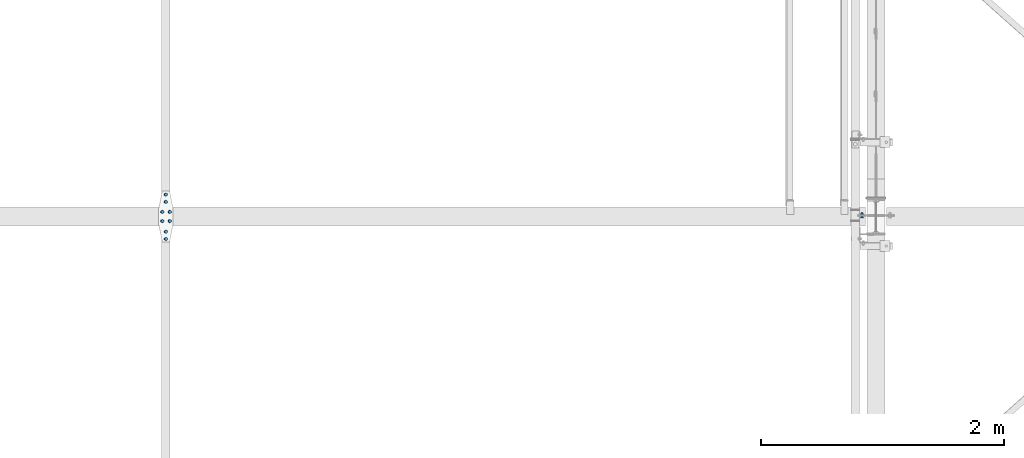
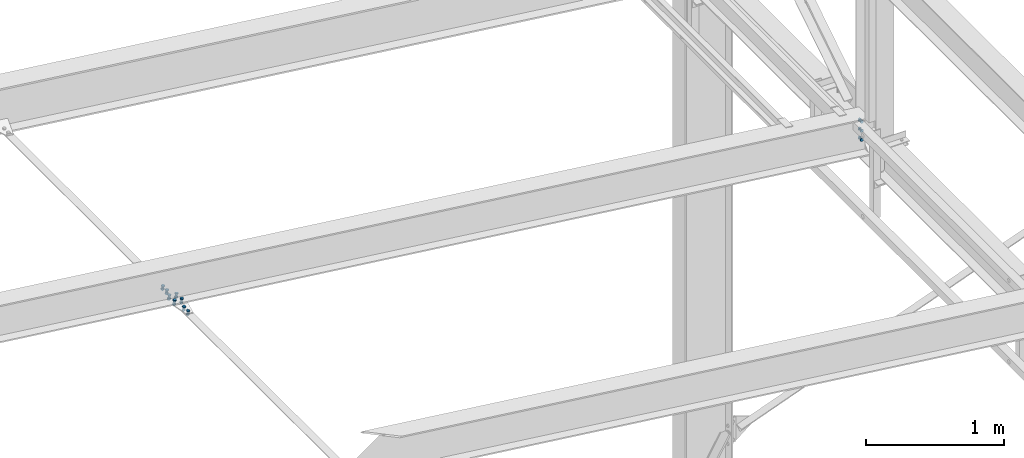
# One storey, part 282 of 3134: 4 mechanical fasteners, 3 elements without a shape of their own.
"""IFC2X3 building model written with IfcOpenShell, lengths in millimetres."""

from ifc_helpers import new_model, si_unit, frame, origin_with_axes, place, context, subcontext, project, spatial, faceted_brep, source, transform, mapped, material, type_object, element, aggregate, save


model = new_model("IFC2X3")

# Units and contexts
model_context = context("Model", 3, precision=1e-05, world=origin_with_axes())
body_context = subcontext(model_context, "Body", "Model", "MODEL_VIEW")
ifc_project = project(units=[si_unit("LENGTHUNIT", "METRE", prefix="MILLI"), si_unit("AREAUNIT", "SQUARE_METRE"), si_unit("VOLUMEUNIT", "CUBIC_METRE"), si_unit("MASSUNIT", "GRAM", prefix="KILO"), si_unit("TIMEUNIT", "SECOND"), si_unit("PLANEANGLEUNIT", "RADIAN"), si_unit("SOLIDANGLEUNIT", "STERADIAN"), si_unit("THERMODYNAMICTEMPERATUREUNIT", "DEGREE_CELSIUS"), si_unit("LUMINOUSINTENSITYUNIT", "LUMEN")], contexts=[model_context])

# Site, building, storey
site_placement = place(None, origin_with_axes())
site = spatial("IfcSite", under=ifc_project, at=site_placement, CompositionType="ELEMENT")
building_placement = place(site_placement, origin_with_axes())
building = spatial("IfcBuilding", under=site, at=building_placement, Name="Undefined", CompositionType="ELEMENT")
storey_placement = place(building_placement, origin_with_axes())
storey = spatial("IfcBuildingStorey", under=building, at=storey_placement, Name="Undefined", CompositionType="ELEMENT", Elevation=0.0)

# Assembly, mechanical fastener
assembly_1_placement = place(storey_placement, origin_with_axes())
assembly_1 = element("IfcElementAssembly", 1, at=assembly_1_placement, inside=storey, Name="PL8", AssemblyPlace="NOTDEFINED", PredefinedType="RIGID_FRAME")
ifc_material = material(Name="8.8")
mechanical_fastener_type = type_object("IfcMechanicalFastenerType", Name="Bolt assembly")
shared_shape_1 = source(origin_with_axes(), body_context, "Body", "Brep", [
    faceted_brep([(13.856406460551, -10.0, 0.0), (6.92820323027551, -10.0, 12.0), (-6.92820323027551, -10.0, 12.0), (-13.856406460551, -10.0, 1.69692038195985e-15), (-6.92820323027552, -10.0, -12.0), (6.9282032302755, -10.0, -12.0), (6.9282032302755, 0.0, -12.0), (-6.92820323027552, 0.0, -12.0), (-13.856406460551, 0.0, 1.69692038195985e-15), (-6.92820323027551, 0.0, 12.0), (6.92820323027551, 0.0, 12.0), (13.856406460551, 0.0, 0.0), (8.0, 0.0, 0.0), (6.92820323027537, 0.0, 4.00000000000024), (3.99999999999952, 0.0, 6.92820323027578), (-8.29068785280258e-13, 0.0, 8.0), (-4.00000000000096, 0.0, 6.92820323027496), (-6.9282032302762, 0.0, 3.99999999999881), (-8.0, 0.0, -1.65813757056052e-12), (-6.92820323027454, 0.0, -4.00000000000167), (-3.99999999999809, 0.0, -6.92820323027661), (2.47832457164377e-12, 0.0, -8.0), (4.00000000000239, 0.0, -6.92820323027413), (6.92820323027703, 0.0, -3.99999999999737), (6.92820323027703, 35.0000000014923, -3.99999999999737), (4.00000000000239, 35.0000000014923, -6.92820323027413), (2.47832457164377e-12, 35.0000000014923, -8.0), (-3.99999999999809, 35.0000000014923, -6.92820323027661), (-6.92820323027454, 35.0000000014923, -4.00000000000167), (-8.0, 35.0000000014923, -1.65813757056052e-12), (-6.9282032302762, 35.0000000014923, 3.99999999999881), (-4.00000000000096, 35.0000000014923, 6.92820323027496), (-8.29068785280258e-13, 35.0000000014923, 8.0), (3.99999999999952, 35.0000000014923, 6.92820323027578), (6.92820323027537, 35.0000000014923, 4.00000000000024), (8.0, 35.0000000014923, 0.0), (13.856406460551, 15.0039204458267, 0.0), (6.92820323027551, 15.0039204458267, 12.0), (-6.92820323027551, 15.0039204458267, 12.0), (-13.856406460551, 15.0039204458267, 1.69692038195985e-15), (-6.92820323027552, 15.0039204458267, -12.0), (6.9282032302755, 15.0039204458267, -12.0), (6.9282032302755, 28.0039204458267, -12.0), (-6.92820323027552, 28.0039204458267, -12.0), (-13.856406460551, 28.0039204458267, 1.69692038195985e-15), (-6.92820323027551, 28.0039204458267, 12.0), (6.92820323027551, 28.0039204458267, 12.0), (13.856406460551, 28.0039204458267, 0.0)], [[[0, 1, 2, 3, 4, 5]], [[6, 7, 8, 9, 10, 11]], [[0, 11, 10, 1]], [[1, 10, 9, 2]], [[2, 9, 8, 3]], [[3, 8, 7, 4]], [[4, 7, 6, 5]], [[5, 6, 11, 0]], [[12, 13, 14, 15, 16, 17, 18, 19, 20, 21, 22, 23]], [[24, 25, 26, 27, 28, 29, 30, 31, 32, 33, 34, 35]], [[12, 35, 34, 13]], [[13, 34, 33, 14]], [[14, 33, 32, 15]], [[15, 32, 31, 16]], [[16, 31, 30, 17]], [[17, 30, 29, 18]], [[18, 29, 28, 19]], [[19, 28, 27, 20]], [[20, 27, 26, 21]], [[21, 26, 25, 22]], [[22, 25, 24, 23]], [[23, 24, 35, 12]], [[36, 37, 38, 39, 40, 41]], [[42, 43, 44, 45, 46, 47]], [[36, 47, 46, 37]], [[37, 46, 45, 38]], [[38, 45, 44, 39]], [[39, 44, 43, 40]], [[40, 43, 42, 41]], [[41, 42, 47, 36]]]),
    faceted_brep([(9.0, 7.90392044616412, 0.0), (7.79422863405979, 7.90392044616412, 4.50000000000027), (4.49999999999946, 7.90392044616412, 7.79422863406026), (-9.3270238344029e-13, 7.90392044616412, 9.0), (-4.50000000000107, 7.90392044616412, 7.79422863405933), (-7.79422863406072, 7.90392044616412, 4.49999999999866), (-9.0, 7.90392044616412, -1.86540476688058e-12), (-7.79422863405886, 7.90392044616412, -4.50000000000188), (-4.49999999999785, 7.90392044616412, -7.79422863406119), (2.78811514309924e-12, 7.90392044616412, -9.0), (4.50000000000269, 7.90392044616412, -7.7942286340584), (7.79422863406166, 7.90392044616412, -4.49999999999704), (7.79422863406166, 15.0039204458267, -4.49999999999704), (4.50000000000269, 15.0039204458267, -7.7942286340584), (2.78811514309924e-12, 15.0039204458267, -9.0), (-4.49999999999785, 15.0039204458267, -7.79422863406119), (-7.79422863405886, 15.0039204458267, -4.50000000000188), (-9.0, 15.0039204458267, -1.86540476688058e-12), (-7.79422863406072, 15.0039204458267, 4.49999999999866), (-4.50000000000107, 15.0039204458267, 7.79422863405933), (-9.3270238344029e-13, 15.0039204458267, 9.0), (4.49999999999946, 15.0039204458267, 7.79422863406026), (7.79422863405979, 15.0039204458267, 4.50000000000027), (9.0, 15.0039204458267, 0.0), (9.0, 0.100000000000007, 0.0), (7.79422863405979, 0.100000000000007, 4.50000000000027), (4.49999999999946, 0.100000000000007, 7.79422863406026), (-9.3270238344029e-13, 0.100000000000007, 9.0), (-4.50000000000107, 0.100000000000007, 7.79422863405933), (-7.79422863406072, 0.100000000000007, 4.49999999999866), (-9.0, 0.100000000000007, -1.86540476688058e-12), (-7.79422863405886, 0.100000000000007, -4.50000000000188), (-4.49999999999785, 0.100000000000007, -7.79422863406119), (2.78811514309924e-12, 0.100000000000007, -9.0), (4.50000000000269, 0.100000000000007, -7.7942286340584), (7.79422863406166, 0.100000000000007, -4.49999999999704), (7.79422863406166, 8.1, -4.49999999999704), (4.50000000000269, 8.1, -7.7942286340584), (2.78811514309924e-12, 8.1, -9.0), (-4.49999999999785, 8.1, -7.79422863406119), (-7.79422863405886, 8.1, -4.50000000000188), (-9.0, 8.1, -1.86540476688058e-12), (-7.79422863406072, 8.1, 4.49999999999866), (-4.50000000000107, 8.1, 7.79422863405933), (-9.3270238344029e-13, 8.1, 9.0), (4.49999999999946, 8.1, 7.79422863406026), (7.79422863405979, 8.1, 4.50000000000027), (9.0, 8.1, 0.0)], [[[0, 1, 2, 3, 4, 5, 6, 7, 8, 9, 10, 11]], [[12, 13, 14, 15, 16, 17, 18, 19, 20, 21, 22, 23]], [[0, 23, 22, 1]], [[1, 22, 21, 2]], [[2, 21, 20, 3]], [[3, 20, 19, 4]], [[4, 19, 18, 5]], [[5, 18, 17, 6]], [[6, 17, 16, 7]], [[7, 16, 15, 8]], [[8, 15, 14, 9]], [[9, 14, 13, 10]], [[10, 13, 12, 11]], [[11, 12, 23, 0]], [[24, 25, 26, 27, 28, 29, 30, 31, 32, 33, 34, 35]], [[36, 37, 38, 39, 40, 41, 42, 43, 44, 45, 46, 47]], [[24, 47, 46, 25]], [[25, 46, 45, 26]], [[26, 45, 44, 27]], [[27, 44, 43, 28]], [[28, 43, 42, 29]], [[29, 42, 41, 30]], [[30, 41, 40, 31]], [[31, 40, 39, 32]], [[32, 39, 38, 33]], [[33, 38, 37, 34]], [[34, 37, 36, 35]], [[35, 36, 47, 24]]]),
])
mechanical_fastener_1_placement = place(assembly_1_placement, frame((38358.9798217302, 58325.0, 4773.97816653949), z_axis=(0.992623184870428, 0.0, -0.121240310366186), x_axis=(0.0, -1.0, 0.0)))
mechanical_fastener_1 = element("IfcMechanicalFastener", 2, at=mechanical_fastener_1_placement, type_object=mechanical_fastener_type, material=ifc_material, Name="Bolt assembly", NominalDiameter=16.0, NominalLength=35.0, context=body_context, shape_type="MappedRepresentation", body=[
    mapped(shared_shape_1, transform((0.0, 0.0, 0.0))),
    mapped(shared_shape_1, transform((59.9999999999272, 0.0, 5.40239852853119e-10))),
])
aggregate(assembly_1, [mechanical_fastener_1])

assembly_2_placement = place(storey_placement, origin_with_axes())
assembly_2 = element("IfcElementAssembly", 3, at=assembly_2_placement, inside=storey, Name="IPE330", AssemblyPlace="NOTDEFINED", PredefinedType="RIGID_FRAME")
shared_shape_2 = source(origin_with_axes(), body_context, "Body", "Brep", [
    faceted_brep([(13.856406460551, -21.4995363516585, 0.0), (6.92820323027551, -21.4995363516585, 12.0), (-6.92820323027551, -21.4995363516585, 12.0), (-13.856406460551, -21.4995363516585, 1.69692038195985e-15), (-6.92820323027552, -21.4995363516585, -12.0), (6.9282032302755, -21.4995363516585, -12.0), (6.9282032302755, -11.4995363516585, -12.0), (-6.92820323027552, -11.4995363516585, -12.0), (-13.856406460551, -11.4995363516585, 1.69692038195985e-15), (-6.92820323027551, -11.4995363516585, 12.0), (6.92820323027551, -11.4995363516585, 12.0), (13.856406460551, -11.4995363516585, 0.0), (8.0, -11.4995363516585, 0.0), (6.92820323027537, -11.4995363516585, 4.00000000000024), (3.99999999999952, -11.4995363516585, 6.92820323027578), (-8.29068785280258e-13, -11.4995363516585, 8.0), (-4.00000000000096, -11.4995363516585, 6.92820323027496), (-6.9282032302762, -11.4995363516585, 3.99999999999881), (-8.0, -11.4995363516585, -1.65813757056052e-12), (-6.92820323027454, -11.4995363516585, -4.00000000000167), (-3.99999999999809, -11.4995363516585, -6.92820323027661), (2.47832457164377e-12, -11.4995363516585, -8.0), (4.00000000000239, -11.4995363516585, -6.92820323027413), (6.92820323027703, -11.4995363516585, -3.99999999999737), (6.92820323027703, 28.5004636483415, -3.99999999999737), (4.00000000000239, 28.5004636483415, -6.92820323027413), (2.47832457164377e-12, 28.5004636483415, -8.0), (-3.99999999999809, 28.5004636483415, -6.92820323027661), (-6.92820323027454, 28.5004636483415, -4.00000000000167), (-8.0, 28.5004636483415, -1.65813757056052e-12), (-6.9282032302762, 28.5004636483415, 3.99999999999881), (-4.00000000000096, 28.5004636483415, 6.92820323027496), (-8.29068785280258e-13, 28.5004636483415, 8.0), (3.99999999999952, 28.5004636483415, 6.92820323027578), (6.92820323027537, 28.5004636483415, 4.00000000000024), (8.0, 28.5004636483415, 0.0), (13.856406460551, 7.9998399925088, 0.0), (6.92820323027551, 7.9998399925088, 12.0), (-6.92820323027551, 7.9998399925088, 12.0), (-13.856406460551, 7.9998399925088, 1.69692038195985e-15), (-6.92820323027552, 7.9998399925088, -12.0), (6.9282032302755, 7.9998399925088, -12.0), (6.9282032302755, 20.9998399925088, -12.0), (-6.92820323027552, 20.9998399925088, -12.0), (-13.856406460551, 20.9998399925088, 1.69692038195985e-15), (-6.92820323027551, 20.9998399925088, 12.0), (6.92820323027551, 20.9998399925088, 12.0), (13.856406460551, 20.9998399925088, 0.0)], [[[0, 1, 2, 3, 4, 5]], [[6, 7, 8, 9, 10, 11]], [[0, 11, 10, 1]], [[1, 10, 9, 2]], [[2, 9, 8, 3]], [[3, 8, 7, 4]], [[4, 7, 6, 5]], [[5, 6, 11, 0]], [[12, 13, 14, 15, 16, 17, 18, 19, 20, 21, 22, 23]], [[24, 25, 26, 27, 28, 29, 30, 31, 32, 33, 34, 35]], [[12, 35, 34, 13]], [[13, 34, 33, 14]], [[14, 33, 32, 15]], [[15, 32, 31, 16]], [[16, 31, 30, 17]], [[17, 30, 29, 18]], [[18, 29, 28, 19]], [[19, 28, 27, 20]], [[20, 27, 26, 21]], [[21, 26, 25, 22]], [[22, 25, 24, 23]], [[23, 24, 35, 12]], [[36, 37, 38, 39, 40, 41]], [[42, 43, 44, 45, 46, 47]], [[36, 47, 46, 37]], [[37, 46, 45, 38]], [[38, 45, 44, 39]], [[39, 44, 43, 40]], [[40, 43, 42, 41]], [[41, 42, 47, 36]]]),
    faceted_brep([(9.0, -0.100160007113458, 0.0), (7.79422863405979, -0.100160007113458, 4.50000000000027), (4.49999999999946, -0.100160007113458, 7.79422863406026), (-9.3270238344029e-13, -0.100160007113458, 9.0), (-4.50000000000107, -0.100160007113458, 7.79422863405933), (-7.79422863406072, -0.100160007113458, 4.49999999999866), (-9.0, -0.100160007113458, -1.86540476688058e-12), (-7.79422863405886, -0.100160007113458, -4.50000000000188), (-4.49999999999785, -0.100160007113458, -7.79422863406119), (2.78811514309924e-12, -0.100160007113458, -9.0), (4.50000000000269, -0.100160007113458, -7.7942286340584), (7.79422863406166, -0.100160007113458, -4.49999999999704), (7.79422863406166, 7.9998399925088, -4.49999999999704), (4.50000000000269, 7.9998399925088, -7.7942286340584), (2.78811514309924e-12, 7.9998399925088, -9.0), (-4.49999999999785, 7.9998399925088, -7.79422863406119), (-7.79422863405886, 7.9998399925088, -4.50000000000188), (-9.0, 7.9998399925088, -1.86540476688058e-12), (-7.79422863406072, 7.9998399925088, 4.49999999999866), (-4.50000000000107, 7.9998399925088, 7.79422863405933), (-9.3270238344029e-13, 7.9998399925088, 9.0), (4.49999999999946, 7.9998399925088, 7.79422863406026), (7.79422863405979, 7.9998399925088, 4.50000000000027), (9.0, 7.9998399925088, 0.0), (9.0, -11.3995363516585, 0.0), (7.79422863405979, -11.3995363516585, 4.50000000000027), (4.49999999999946, -11.3995363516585, 7.79422863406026), (-9.3270238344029e-13, -11.3995363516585, 9.0), (-4.50000000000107, -11.3995363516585, 7.79422863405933), (-7.79422863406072, -11.3995363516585, 4.49999999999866), (-9.0, -11.3995363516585, -1.86540476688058e-12), (-7.79422863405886, -11.3995363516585, -4.50000000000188), (-4.49999999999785, -11.3995363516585, -7.79422863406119), (2.78811514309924e-12, -11.3995363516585, -9.0), (4.50000000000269, -11.3995363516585, -7.7942286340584), (7.79422863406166, -11.3995363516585, -4.49999999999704), (7.79422863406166, 0.100463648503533, -4.49999999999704), (4.50000000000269, 0.100463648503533, -7.7942286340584), (2.78811514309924e-12, 0.100463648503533, -9.0), (-4.49999999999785, 0.100463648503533, -7.79422863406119), (-7.79422863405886, 0.100463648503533, -4.50000000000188), (-9.0, 0.100463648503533, -1.86540476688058e-12), (-7.79422863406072, 0.100463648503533, 4.49999999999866), (-4.50000000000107, 0.100463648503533, 7.79422863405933), (-9.3270238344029e-13, 0.100463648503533, 9.0), (4.49999999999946, 0.100463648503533, 7.79422863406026), (7.79422863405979, 0.100463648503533, 4.50000000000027), (9.0, 0.100463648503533, 0.0)], [[[0, 1, 2, 3, 4, 5, 6, 7, 8, 9, 10, 11]], [[12, 13, 14, 15, 16, 17, 18, 19, 20, 21, 22, 23]], [[0, 23, 22, 1]], [[1, 22, 21, 2]], [[2, 21, 20, 3]], [[3, 20, 19, 4]], [[4, 19, 18, 5]], [[5, 18, 17, 6]], [[6, 17, 16, 7]], [[7, 16, 15, 8]], [[8, 15, 14, 9]], [[9, 14, 13, 10]], [[10, 13, 12, 11]], [[11, 12, 23, 0]], [[24, 25, 26, 27, 28, 29, 30, 31, 32, 33, 34, 35]], [[36, 37, 38, 39, 40, 41, 42, 43, 44, 45, 46, 47]], [[24, 47, 46, 25]], [[25, 46, 45, 26]], [[26, 45, 44, 27]], [[27, 44, 43, 28]], [[28, 43, 42, 29]], [[29, 42, 41, 30]], [[30, 41, 40, 31]], [[31, 40, 39, 32]], [[32, 39, 38, 33]], [[33, 38, 37, 34]], [[34, 37, 36, 35]], [[35, 36, 47, 24]]]),
])
mechanical_fastener_2_placement = place(assembly_2_placement, frame((38358.9798217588, 58412.0, 4773.97816653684), z_axis=(-0.992622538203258, 0.0, 0.121245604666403), x_axis=(0.0, 1.0, 0.0)))
mechanical_fastener_2 = element("IfcMechanicalFastener", 4, at=mechanical_fastener_2_placement, type_object=mechanical_fastener_type, material=ifc_material, Name="Bolt assembly", NominalDiameter=16.0, NominalLength=40.0, context=body_context, shape_type="MappedRepresentation", body=[
    mapped(shared_shape_2, transform((0.0, 4.54747350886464e-13, -30.0000000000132))),
    mapped(shared_shape_2, transform((76.0, -2.00088834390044e-10, -29.9999999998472))),
    mapped(shared_shape_2, transform((0.0, 4.54747350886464e-13, 30.0000000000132))),
    mapped(shared_shape_2, transform((76.0, 1.98269844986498e-10, 29.9999999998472))),
])

assembly_3_placement = place(storey_placement, origin_with_axes())
assembly_3 = element("IfcElementAssembly", 5, at=assembly_3_placement, inside=storey, AssemblyPlace="NOTDEFINED", PredefinedType="RIGID_FRAME")
shared_shape_3 = source(origin_with_axes(), body_context, "Body", "Brep", [
    faceted_brep([(13.856406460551, -10.0, 0.0), (6.92820323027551, -10.0, 12.0), (-6.92820323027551, -10.0, 12.0), (-13.856406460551, -10.0, 1.69692038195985e-15), (-6.92820323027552, -10.0, -12.0), (6.9282032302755, -10.0, -12.0), (6.9282032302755, 0.0, -12.0), (-6.92820323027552, 0.0, -12.0), (-13.856406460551, 0.0, 1.69692038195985e-15), (-6.92820323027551, 0.0, 12.0), (6.92820323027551, 0.0, 12.0), (13.856406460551, 0.0, 0.0), (8.0, 0.0, 0.0), (6.92820323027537, 0.0, 4.00000000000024), (3.99999999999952, 0.0, 6.92820323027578), (-8.29068785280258e-13, 0.0, 8.0), (-4.00000000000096, 0.0, 6.92820323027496), (-6.9282032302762, 0.0, 3.99999999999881), (-8.0, 0.0, -1.65813757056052e-12), (-6.92820323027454, 0.0, -4.00000000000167), (-3.99999999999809, 0.0, -6.92820323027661), (2.47832457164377e-12, 0.0, -8.0), (4.00000000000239, 0.0, -6.92820323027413), (6.92820323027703, 0.0, -3.99999999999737), (6.92820323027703, 35.0000000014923, -3.99999999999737), (4.00000000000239, 35.0000000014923, -6.92820323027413), (2.47832457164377e-12, 35.0000000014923, -8.0), (-3.99999999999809, 35.0000000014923, -6.92820323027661), (-6.92820323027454, 35.0000000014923, -4.00000000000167), (-8.0, 35.0000000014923, -1.65813757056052e-12), (-6.9282032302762, 35.0000000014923, 3.99999999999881), (-4.00000000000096, 35.0000000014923, 6.92820323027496), (-8.29068785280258e-13, 35.0000000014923, 8.0), (3.99999999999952, 35.0000000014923, 6.92820323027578), (6.92820323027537, 35.0000000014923, 4.00000000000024), (8.0, 35.0000000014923, 0.0), (13.856406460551, 15.0039204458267, 0.0), (6.92820323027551, 15.0039204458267, 12.0), (-6.92820323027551, 15.0039204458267, 12.0), (-13.856406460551, 15.0039204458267, 1.69692038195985e-15), (-6.92820323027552, 15.0039204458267, -12.0), (6.9282032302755, 15.0039204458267, -12.0), (6.9282032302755, 28.0039204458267, -12.0), (-6.92820323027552, 28.0039204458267, -12.0), (-13.856406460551, 28.0039204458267, 1.69692038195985e-15), (-6.92820323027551, 28.0039204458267, 12.0), (6.92820323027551, 28.0039204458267, 12.0), (13.856406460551, 28.0039204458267, 0.0)], [[[0, 1, 2, 3, 4, 5]], [[6, 7, 8, 9, 10, 11]], [[0, 11, 10, 1]], [[1, 10, 9, 2]], [[2, 9, 8, 3]], [[3, 8, 7, 4]], [[4, 7, 6, 5]], [[5, 6, 11, 0]], [[12, 13, 14, 15, 16, 17, 18, 19, 20, 21, 22, 23]], [[24, 25, 26, 27, 28, 29, 30, 31, 32, 33, 34, 35]], [[12, 35, 34, 13]], [[13, 34, 33, 14]], [[14, 33, 32, 15]], [[15, 32, 31, 16]], [[16, 31, 30, 17]], [[17, 30, 29, 18]], [[18, 29, 28, 19]], [[19, 28, 27, 20]], [[20, 27, 26, 21]], [[21, 26, 25, 22]], [[22, 25, 24, 23]], [[23, 24, 35, 12]], [[36, 37, 38, 39, 40, 41]], [[42, 43, 44, 45, 46, 47]], [[36, 47, 46, 37]], [[37, 46, 45, 38]], [[38, 45, 44, 39]], [[39, 44, 43, 40]], [[40, 43, 42, 41]], [[41, 42, 47, 36]]]),
    faceted_brep([(9.0, 0.100000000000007, 0.0), (7.79422863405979, 0.100000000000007, 4.50000000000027), (4.49999999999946, 0.100000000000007, 7.79422863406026), (-9.3270238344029e-13, 0.100000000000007, 9.0), (-4.50000000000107, 0.100000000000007, 7.79422863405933), (-7.79422863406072, 0.100000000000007, 4.49999999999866), (-9.0, 0.100000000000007, -1.86540476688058e-12), (-7.79422863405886, 0.100000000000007, -4.50000000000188), (-4.49999999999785, 0.100000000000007, -7.79422863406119), (2.78811514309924e-12, 0.100000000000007, -9.0), (4.50000000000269, 0.100000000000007, -7.7942286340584), (7.79422863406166, 0.100000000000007, -4.49999999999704), (7.79422863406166, 8.1, -4.49999999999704), (4.50000000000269, 8.1, -7.7942286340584), (2.78811514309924e-12, 8.1, -9.0), (-4.49999999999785, 8.1, -7.79422863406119), (-7.79422863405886, 8.1, -4.50000000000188), (-9.0, 8.1, -1.86540476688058e-12), (-7.79422863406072, 8.1, 4.49999999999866), (-4.50000000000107, 8.1, 7.79422863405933), (-9.3270238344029e-13, 8.1, 9.0), (4.49999999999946, 8.1, 7.79422863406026), (7.79422863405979, 8.1, 4.50000000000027), (9.0, 8.1, 0.0), (9.0, 7.90392044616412, 0.0), (7.79422863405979, 7.90392044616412, 4.50000000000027), (4.49999999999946, 7.90392044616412, 7.79422863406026), (-9.3270238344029e-13, 7.90392044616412, 9.0), (-4.50000000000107, 7.90392044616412, 7.79422863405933), (-7.79422863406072, 7.90392044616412, 4.49999999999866), (-9.0, 7.90392044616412, -1.86540476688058e-12), (-7.79422863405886, 7.90392044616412, -4.50000000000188), (-4.49999999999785, 7.90392044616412, -7.79422863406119), (2.78811514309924e-12, 7.90392044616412, -9.0), (4.50000000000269, 7.90392044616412, -7.7942286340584), (7.79422863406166, 7.90392044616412, -4.49999999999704), (7.79422863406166, 15.0039204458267, -4.49999999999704), (4.50000000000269, 15.0039204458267, -7.7942286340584), (2.78811514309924e-12, 15.0039204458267, -9.0), (-4.49999999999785, 15.0039204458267, -7.79422863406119), (-7.79422863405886, 15.0039204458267, -4.50000000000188), (-9.0, 15.0039204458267, -1.86540476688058e-12), (-7.79422863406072, 15.0039204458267, 4.49999999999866), (-4.50000000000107, 15.0039204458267, 7.79422863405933), (-9.3270238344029e-13, 15.0039204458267, 9.0), (4.49999999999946, 15.0039204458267, 7.79422863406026), (7.79422863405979, 15.0039204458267, 4.50000000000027), (9.0, 15.0039204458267, 0.0)], [[[0, 1, 2, 3, 4, 5, 6, 7, 8, 9, 10, 11]], [[12, 13, 14, 15, 16, 17, 18, 19, 20, 21, 22, 23]], [[0, 23, 22, 1]], [[1, 22, 21, 2]], [[2, 21, 20, 3]], [[3, 20, 19, 4]], [[4, 19, 18, 5]], [[5, 18, 17, 6]], [[6, 17, 16, 7]], [[7, 16, 15, 8]], [[8, 15, 14, 9]], [[9, 14, 13, 10]], [[10, 13, 12, 11]], [[11, 12, 23, 0]], [[24, 25, 26, 27, 28, 29, 30, 31, 32, 33, 34, 35]], [[36, 37, 38, 39, 40, 41, 42, 43, 44, 45, 46, 47]], [[24, 47, 46, 25]], [[25, 46, 45, 26]], [[26, 45, 44, 27]], [[27, 44, 43, 28]], [[28, 43, 42, 29]], [[29, 42, 41, 30]], [[30, 41, 40, 31]], [[31, 40, 39, 32]], [[32, 39, 38, 33]], [[33, 38, 37, 34]], [[34, 37, 36, 35]], [[35, 36, 47, 24]]]),
])
mechanical_fastener_3_placement = place(assembly_3_placement, frame((38358.9798217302, 58630.0, 4773.97816653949), z_axis=(0.992623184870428, 0.0, -0.121240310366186), x_axis=(0.0, -1.0, 0.0)))
mechanical_fastener_3 = element("IfcMechanicalFastener", 6, at=mechanical_fastener_3_placement, type_object=mechanical_fastener_type, material=ifc_material, Name="Bolt assembly", NominalDiameter=16.0, NominalLength=35.0, context=body_context, shape_type="MappedRepresentation", body=[
    mapped(shared_shape_3, transform((0.0, 0.0, 0.0))),
    mapped(shared_shape_3, transform((59.9999999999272, 0.0, 5.40239852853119e-10))),
])
aggregate(assembly_3, [mechanical_fastener_3])

# Mechanical fastener
shared_shape_4 = source(origin_with_axes(), body_context, "Body", "Brep", [
    faceted_brep([(13.856406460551, -13.75, 0.0), (6.92820323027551, -13.75, 12.0), (-6.92820323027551, -13.75, 12.0), (-13.856406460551, -13.75, 1.69692038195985e-15), (-6.92820323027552, -13.75, -12.0), (6.9282032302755, -13.75, -12.0), (6.9282032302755, -3.75, -12.0), (-6.92820323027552, -3.75, -12.0), (-13.856406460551, -3.75, 1.69692038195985e-15), (-6.92820323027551, -3.75, 12.0), (6.92820323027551, -3.75, 12.0), (13.856406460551, -3.75, 0.0), (8.0, -3.75, 0.0), (6.92820323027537, -3.75, 4.00000000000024), (3.99999999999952, -3.75, 6.92820323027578), (-8.29068785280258e-13, -3.75, 8.0), (-4.00000000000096, -3.75, 6.92820323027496), (-6.9282032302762, -3.75, 3.99999999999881), (-8.0, -3.75, -1.65813757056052e-12), (-6.92820323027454, -3.75, -4.00000000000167), (-3.99999999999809, -3.75, -6.92820323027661), (2.47832457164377e-12, -3.75, -8.0), (4.00000000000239, -3.75, -6.92820323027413), (6.92820323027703, -3.75, -3.99999999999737), (6.92820323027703, 31.25, -3.99999999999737), (4.00000000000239, 31.25, -6.92820323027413), (2.47832457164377e-12, 31.25, -8.0), (-3.99999999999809, 31.25, -6.92820323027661), (-6.92820323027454, 31.25, -4.00000000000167), (-8.0, 31.25, -1.65813757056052e-12), (-6.9282032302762, 31.25, 3.99999999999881), (-4.00000000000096, 31.25, 6.92820323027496), (-8.29068785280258e-13, 31.25, 8.0), (3.99999999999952, 31.25, 6.92820323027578), (6.92820323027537, 31.25, 4.00000000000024), (8.0, 31.25, 0.0), (13.856406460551, 13.0500000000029, 0.0), (6.92820323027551, 13.0500000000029, 12.0), (-6.92820323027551, 13.0500000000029, 12.0), (-13.856406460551, 13.0500000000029, 1.69692038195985e-15), (-6.92820323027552, 13.0500000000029, -12.0), (6.9282032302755, 13.0500000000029, -12.0), (6.9282032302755, 26.0500000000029, -12.0), (-6.92820323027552, 26.0500000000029, -12.0), (-13.856406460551, 26.0500000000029, 1.69692038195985e-15), (-6.92820323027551, 26.0500000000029, 12.0), (6.92820323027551, 26.0500000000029, 12.0), (13.856406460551, 26.0500000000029, 0.0)], [[[0, 1, 2, 3, 4, 5]], [[6, 7, 8, 9, 10, 11]], [[0, 11, 10, 1]], [[1, 10, 9, 2]], [[2, 9, 8, 3]], [[3, 8, 7, 4]], [[4, 7, 6, 5]], [[5, 6, 11, 0]], [[12, 13, 14, 15, 16, 17, 18, 19, 20, 21, 22, 23]], [[24, 25, 26, 27, 28, 29, 30, 31, 32, 33, 34, 35]], [[12, 35, 34, 13]], [[13, 34, 33, 14]], [[14, 33, 32, 15]], [[15, 32, 31, 16]], [[16, 31, 30, 17]], [[17, 30, 29, 18]], [[18, 29, 28, 19]], [[19, 28, 27, 20]], [[20, 27, 26, 21]], [[21, 26, 25, 22]], [[22, 25, 24, 23]], [[23, 24, 35, 12]], [[36, 37, 38, 39, 40, 41]], [[42, 43, 44, 45, 46, 47]], [[36, 47, 46, 37]], [[37, 46, 45, 38]], [[38, 45, 44, 39]], [[39, 44, 43, 40]], [[40, 43, 42, 41]], [[41, 42, 47, 36]]]),
    faceted_brep([(9.0, 2.95000000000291, 0.0), (7.79422863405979, 2.95000000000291, 4.50000000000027), (4.49999999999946, 2.95000000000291, 7.79422863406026), (-9.3270238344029e-13, 2.95000000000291, 9.0), (-4.50000000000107, 2.95000000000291, 7.79422863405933), (-7.79422863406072, 2.95000000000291, 4.49999999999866), (-9.0, 2.95000000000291, -1.86540476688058e-12), (-7.79422863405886, 2.95000000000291, -4.50000000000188), (-4.49999999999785, 2.95000000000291, -7.79422863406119), (2.78811514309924e-12, 2.95000000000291, -9.0), (4.50000000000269, 2.95000000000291, -7.7942286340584), (7.79422863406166, 2.95000000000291, -4.49999999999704), (7.79422863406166, 13.0500000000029, -4.49999999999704), (4.50000000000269, 13.0500000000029, -7.7942286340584), (2.78811514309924e-12, 13.0500000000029, -9.0), (-4.49999999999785, 13.0500000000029, -7.79422863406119), (-7.79422863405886, 13.0500000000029, -4.50000000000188), (-9.0, 13.0500000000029, -1.86540476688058e-12), (-7.79422863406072, 13.0500000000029, 4.49999999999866), (-4.50000000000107, 13.0500000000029, 7.79422863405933), (-9.3270238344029e-13, 13.0500000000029, 9.0), (4.49999999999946, 13.0500000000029, 7.79422863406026), (7.79422863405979, 13.0500000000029, 4.50000000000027), (9.0, 13.0500000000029, 0.0), (9.0, -3.65, 0.0), (7.79422863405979, -3.65, 4.50000000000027), (4.49999999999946, -3.65, 7.79422863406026), (-9.3270238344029e-13, -3.65, 9.0), (-4.50000000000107, -3.65, 7.79422863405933), (-7.79422863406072, -3.65, 4.49999999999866), (-9.0, -3.65, -1.86540476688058e-12), (-7.79422863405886, -3.65, -4.50000000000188), (-4.49999999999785, -3.65, -7.79422863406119), (2.78811514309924e-12, -3.65, -9.0), (4.50000000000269, -3.65, -7.7942286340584), (7.79422863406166, -3.65, -4.49999999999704), (7.79422863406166, 3.85, -4.49999999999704), (4.50000000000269, 3.85, -7.7942286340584), (2.78811514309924e-12, 3.85, -9.0), (-4.49999999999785, 3.85, -7.79422863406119), (-7.79422863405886, 3.85, -4.50000000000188), (-9.0, 3.85, -1.86540476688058e-12), (-7.79422863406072, 3.85, 4.49999999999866), (-4.50000000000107, 3.85, 7.79422863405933), (-9.3270238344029e-13, 3.85, 9.0), (4.49999999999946, 3.85, 7.79422863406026), (7.79422863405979, 3.85, 4.50000000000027), (9.0, 3.85, 0.0)], [[[0, 1, 2, 3, 4, 5, 6, 7, 8, 9, 10, 11]], [[12, 13, 14, 15, 16, 17, 18, 19, 20, 21, 22, 23]], [[0, 23, 22, 1]], [[1, 22, 21, 2]], [[2, 21, 20, 3]], [[3, 20, 19, 4]], [[4, 19, 18, 5]], [[5, 18, 17, 6]], [[6, 17, 16, 7]], [[7, 16, 15, 8]], [[8, 15, 14, 9]], [[9, 14, 13, 10]], [[10, 13, 12, 11]], [[11, 12, 23, 0]], [[24, 25, 26, 27, 28, 29, 30, 31, 32, 33, 34, 35]], [[36, 37, 38, 39, 40, 41, 42, 43, 44, 45, 46, 47]], [[24, 47, 46, 25]], [[25, 46, 45, 26]], [[26, 45, 44, 27]], [[27, 44, 43, 28]], [[28, 43, 42, 29]], [[29, 42, 41, 30]], [[30, 41, 40, 31]], [[31, 40, 39, 32]], [[32, 39, 38, 33]], [[33, 38, 37, 34]], [[34, 37, 36, 35]], [[35, 36, 47, 24]]]),
])
mechanical_fastener_4_placement = place(assembly_2_placement, frame((44085.0, 58450.0, 4337.44269270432), z_axis=(1.0, 0.0, 0.0), x_axis=(0.0, 0.0, -1.0)))
mechanical_fastener_4 = element("IfcMechanicalFastener", 7, at=mechanical_fastener_4_placement, type_object=mechanical_fastener_type, material=ifc_material, Name="Bolt assembly", NominalDiameter=16.0, NominalLength=35.0, context=body_context, shape_type="MappedRepresentation", body=[
    mapped(shared_shape_4, transform((0.0, 0.0, 0.0))),
    mapped(shared_shape_4, transform((80.0, 0.0, 0.0))),
    mapped(shared_shape_4, transform((160.0, 0.0, 0.0))),
])

aggregate(assembly_2, [mechanical_fastener_2, mechanical_fastener_4])

save(model, "model.ifc")
